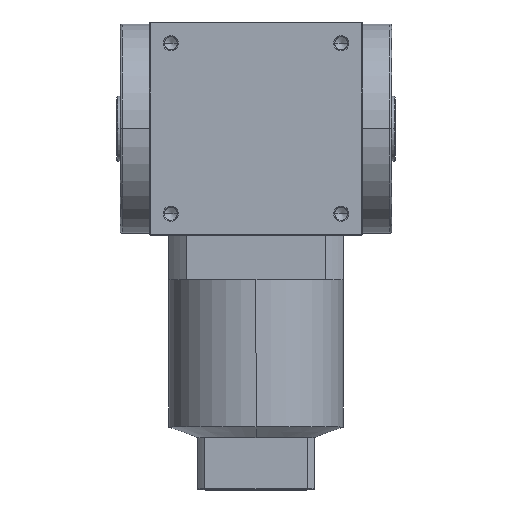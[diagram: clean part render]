
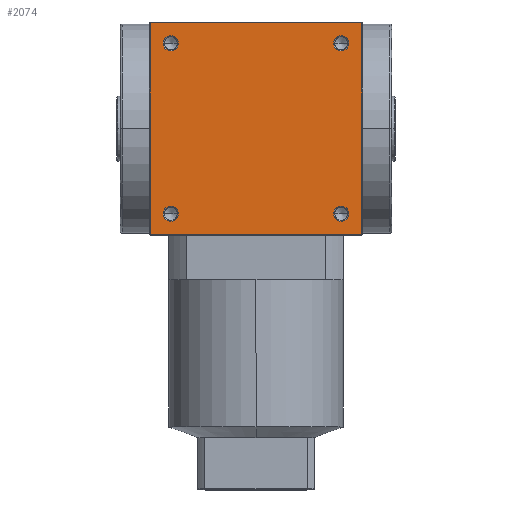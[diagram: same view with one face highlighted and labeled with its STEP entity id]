
A CAD part, top view. The second image highlights one B-rep face of the part: STEP entity #2074.
In plain terms, the highlighted planar face has unit normal (0, 0, 1).
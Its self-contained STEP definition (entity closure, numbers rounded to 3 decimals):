
#1 = CARTESIAN_POINT ( 'NONE',  ( -44., 44., 55. ) ) ;
#169 = ORIENTED_EDGE ( 'NONE', *, *, #2228, .T. ) ;
#199 = FACE_BOUND ( 'NONE', #709, .T. ) ;
#318 = CIRCLE ( 'NONE', #838, 3.9 ) ;
#458 = CIRCLE ( 'NONE', #5468, 3.9 ) ;
#474 = DIRECTION ( 'NONE',  ( -1., 0., 0. ) ) ;
#557 = DIRECTION ( 'NONE',  ( -1., 0., 0. ) ) ;
#709 = EDGE_LOOP ( 'NONE', ( #7906, #8208 ) ) ;
#838 = AXIS2_PLACEMENT_3D ( 'NONE', #7364, #1182, #474 ) ;
#843 = DIRECTION ( 'NONE',  ( 0., 0., -1. ) ) ;
#864 = CARTESIAN_POINT ( 'NONE',  ( 54.5, -54.5, 55. ) ) ;
#894 = CARTESIAN_POINT ( 'NONE',  ( 40.1, 44., 55. ) ) ;
#897 = DIRECTION ( 'NONE',  ( 1., 0., 0. ) ) ;
#905 = VECTOR ( 'NONE', #5172, 1000. ) ;
#924 = ORIENTED_EDGE ( 'NONE', *, *, #6642, .T. ) ;
#928 = DIRECTION ( 'NONE',  ( 0., 0., -1. ) ) ;
#1145 = VERTEX_POINT ( 'NONE', #6805 ) ;
#1168 = LINE ( 'NONE', #5559, #8103 ) ;
#1174 = ORIENTED_EDGE ( 'NONE', *, *, #6499, .T. ) ;
#1182 = DIRECTION ( 'NONE',  ( 0., 0., -1. ) ) ;
#1419 = CARTESIAN_POINT ( 'NONE',  ( -47.9, -44., 55. ) ) ;
#1563 = EDGE_CURVE ( 'NONE', #4607, #3220, #318, .T. ) ;
#1578 = CIRCLE ( 'NONE', #3377, 3.9 ) ;
#1706 = VERTEX_POINT ( 'NONE', #5373 ) ;
#1707 = EDGE_LOOP ( 'NONE', ( #7838, #8157 ) ) ;
#1885 = EDGE_CURVE ( 'NONE', #5666, #5861, #3384, .T. ) ;
#2004 = EDGE_CURVE ( 'NONE', #3220, #4607, #1578, .T. ) ;
#2007 = FACE_OUTER_BOUND ( 'NONE', #6108, .T. ) ;
#2037 = DIRECTION ( 'NONE',  ( -1., 0., 0. ) ) ;
#2074 = ADVANCED_FACE ( 'NONE', ( #2007, #6815, #199, #5139, #3486 ), #3824, .F. ) ;
#2137 = EDGE_CURVE ( 'NONE', #4123, #4989, #7366, .T. ) ;
#2148 = CARTESIAN_POINT ( 'NONE',  ( 47.9, -44., 55. ) ) ;
#2164 = ORIENTED_EDGE ( 'NONE', *, *, #4735, .T. ) ;
#2228 = EDGE_CURVE ( 'NONE', #6473, #2775, #1168, .T. ) ;
#2251 = LINE ( 'NONE', #6144, #5592 ) ;
#2264 = DIRECTION ( 'NONE',  ( -1., 0., 0. ) ) ;
#2288 = EDGE_CURVE ( 'NONE', #5705, #1145, #6285, .T. ) ;
#2426 = AXIS2_PLACEMENT_3D ( 'NONE', #3855, #8552, #7276 ) ;
#2598 = DIRECTION ( 'NONE',  ( 0., 0., -1. ) ) ;
#2675 = CARTESIAN_POINT ( 'NONE',  ( 40.1, -44., 55. ) ) ;
#2705 = CARTESIAN_POINT ( 'NONE',  ( 44., 44., 55. ) ) ;
#2709 = ORIENTED_EDGE ( 'NONE', *, *, #7541, .T. ) ;
#2775 = VERTEX_POINT ( 'NONE', #864 ) ;
#2790 = ORIENTED_EDGE ( 'NONE', *, *, #7282, .T. ) ;
#2875 = CIRCLE ( 'NONE', #8474, 3.9 ) ;
#2976 = DIRECTION ( 'NONE',  ( -1., 0., 0. ) ) ;
#3220 = VERTEX_POINT ( 'NONE', #2675 ) ;
#3336 = CARTESIAN_POINT ( 'NONE',  ( -54.5, -54.5, 55. ) ) ;
#3377 = AXIS2_PLACEMENT_3D ( 'NONE', #5696, #2598, #557 ) ;
#3384 = CIRCLE ( 'NONE', #8333, 3.9 ) ;
#3486 = FACE_BOUND ( 'NONE', #3859, .T. ) ;
#3565 = DIRECTION ( 'NONE',  ( 0., 0., -1. ) ) ;
#3569 = DIRECTION ( 'NONE',  ( 0., -1., 0. ) ) ;
#3806 = DIRECTION ( 'NONE',  ( -1., 0., 0. ) ) ;
#3824 = PLANE ( 'NONE',  #2426 ) ;
#3855 = CARTESIAN_POINT ( 'NONE',  ( 0., 0., 55. ) ) ;
#3859 = EDGE_LOOP ( 'NONE', ( #7317, #1174 ) ) ;
#4123 = VERTEX_POINT ( 'NONE', #894 ) ;
#4607 = VERTEX_POINT ( 'NONE', #2148 ) ;
#4713 = DIRECTION ( 'NONE',  ( -1., 0., 0. ) ) ;
#4735 = EDGE_CURVE ( 'NONE', #4989, #4123, #7852, .T. ) ;
#4842 = VECTOR ( 'NONE', #2976, 1000. ) ;
#4882 = CARTESIAN_POINT ( 'NONE',  ( -44., 44., 55. ) ) ;
#4953 = EDGE_LOOP ( 'NONE', ( #2164, #7158 ) ) ;
#4966 = DIRECTION ( 'NONE',  ( -1., 0., 0. ) ) ;
#4989 = VERTEX_POINT ( 'NONE', #5232 ) ;
#5139 = FACE_BOUND ( 'NONE', #4953, .T. ) ;
#5161 = AXIS2_PLACEMENT_3D ( 'NONE', #2705, #8097, #4713 ) ;
#5172 = DIRECTION ( 'NONE',  ( 0., 1., 0. ) ) ;
#5232 = CARTESIAN_POINT ( 'NONE',  ( 47.9, 44., 55. ) ) ;
#5373 = CARTESIAN_POINT ( 'NONE',  ( -54.5, 54.5, 55. ) ) ;
#5468 = AXIS2_PLACEMENT_3D ( 'NONE', #7095, #6488, #3806 ) ;
#5559 = CARTESIAN_POINT ( 'NONE',  ( 0., -54.5, 55. ) ) ;
#5586 = CARTESIAN_POINT ( 'NONE',  ( 44., 44., 55. ) ) ;
#5592 = VECTOR ( 'NONE', #3569, 1000. ) ;
#5666 = VERTEX_POINT ( 'NONE', #7301 ) ;
#5696 = CARTESIAN_POINT ( 'NONE',  ( 44., -44., 55. ) ) ;
#5705 = VERTEX_POINT ( 'NONE', #7278 ) ;
#5861 = VERTEX_POINT ( 'NONE', #1419 ) ;
#6108 = EDGE_LOOP ( 'NONE', ( #924, #169, #2709, #2790 ) ) ;
#6144 = CARTESIAN_POINT ( 'NONE',  ( -54.5, 0., 55. ) ) ;
#6231 = LINE ( 'NONE', #7853, #905 ) ;
#6273 = CARTESIAN_POINT ( 'NONE',  ( 0., 54.5, 55. ) ) ;
#6280 = CARTESIAN_POINT ( 'NONE',  ( -44., -44., 55. ) ) ;
#6285 = CIRCLE ( 'NONE', #7192, 3.9 ) ;
#6286 = CARTESIAN_POINT ( 'NONE',  ( 54.5, 54.5, 55. ) ) ;
#6305 = DIRECTION ( 'NONE',  ( -1., 0., 0. ) ) ;
#6311 = EDGE_CURVE ( 'NONE', #5861, #5666, #458, .T. ) ;
#6473 = VERTEX_POINT ( 'NONE', #3336 ) ;
#6488 = DIRECTION ( 'NONE',  ( 0., 0., -1. ) ) ;
#6499 = EDGE_CURVE ( 'NONE', #1145, #5705, #2875, .T. ) ;
#6642 = EDGE_CURVE ( 'NONE', #1706, #6473, #2251, .T. ) ;
#6805 = CARTESIAN_POINT ( 'NONE',  ( -47.9, 44., 55. ) ) ;
#6815 = FACE_BOUND ( 'NONE', #1707, .T. ) ;
#6816 = VERTEX_POINT ( 'NONE', #6286 ) ;
#7095 = CARTESIAN_POINT ( 'NONE',  ( -44., -44., 55. ) ) ;
#7130 = AXIS2_PLACEMENT_3D ( 'NONE', #5586, #928, #6305 ) ;
#7158 = ORIENTED_EDGE ( 'NONE', *, *, #2137, .T. ) ;
#7192 = AXIS2_PLACEMENT_3D ( 'NONE', #4882, #843, #4966 ) ;
#7276 = DIRECTION ( 'NONE',  ( -1., 0., 0. ) ) ;
#7278 = CARTESIAN_POINT ( 'NONE',  ( -40.1, 44., 55. ) ) ;
#7282 = EDGE_CURVE ( 'NONE', #6816, #1706, #8106, .T. ) ;
#7301 = CARTESIAN_POINT ( 'NONE',  ( -40.1, -44., 55. ) ) ;
#7317 = ORIENTED_EDGE ( 'NONE', *, *, #2288, .T. ) ;
#7364 = CARTESIAN_POINT ( 'NONE',  ( 44., -44., 55. ) ) ;
#7366 = CIRCLE ( 'NONE', #5161, 3.9 ) ;
#7541 = EDGE_CURVE ( 'NONE', #2775, #6816, #6231, .T. ) ;
#7838 = ORIENTED_EDGE ( 'NONE', *, *, #1563, .T. ) ;
#7852 = CIRCLE ( 'NONE', #7130, 3.9 ) ;
#7853 = CARTESIAN_POINT ( 'NONE',  ( 54.5, 0., 55. ) ) ;
#7906 = ORIENTED_EDGE ( 'NONE', *, *, #1885, .T. ) ;
#8083 = DIRECTION ( 'NONE',  ( 0., 0., -1. ) ) ;
#8097 = DIRECTION ( 'NONE',  ( 0., 0., -1. ) ) ;
#8103 = VECTOR ( 'NONE', #897, 1000. ) ;
#8106 = LINE ( 'NONE', #6273, #4842 ) ;
#8157 = ORIENTED_EDGE ( 'NONE', *, *, #2004, .T. ) ;
#8208 = ORIENTED_EDGE ( 'NONE', *, *, #6311, .T. ) ;
#8333 = AXIS2_PLACEMENT_3D ( 'NONE', #6280, #3565, #2264 ) ;
#8474 = AXIS2_PLACEMENT_3D ( 'NONE', #1, #8083, #2037 ) ;
#8552 = DIRECTION ( 'NONE',  ( 0., 0., -1. ) ) ;
